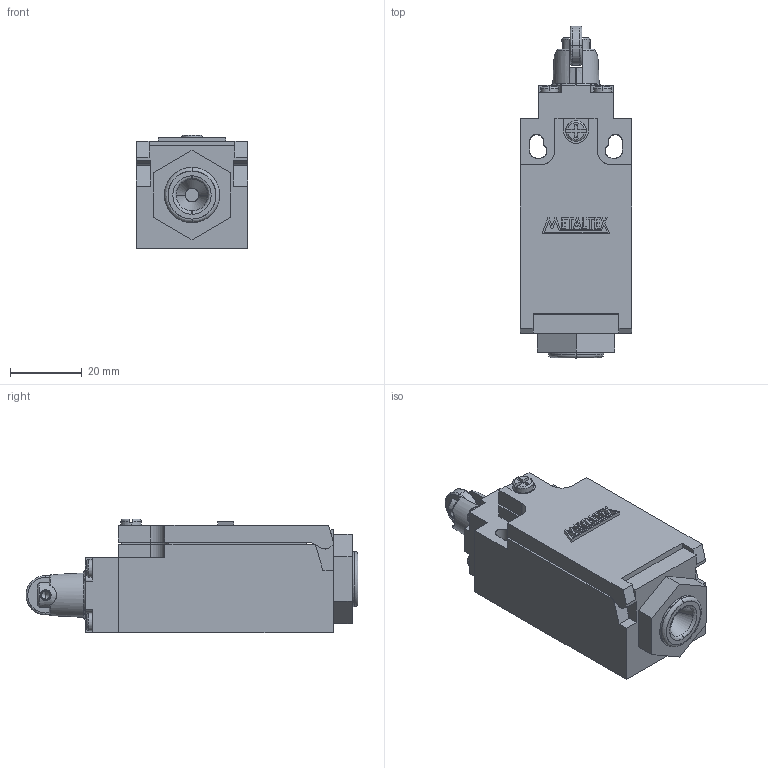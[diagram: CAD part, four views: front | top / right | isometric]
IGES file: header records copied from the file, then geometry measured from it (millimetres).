
Start section: SolidWorks IGES file using analytic representation for surfaces
Global section: file name: D:\X - Arquivos\PROEX\Empresas\P11 - METALTEX\01 - Produtos\IGES\4ª remessa\1ª etapa\FM9222.IGS; native system: SolidWorks 2012; preprocessor: SolidWorks 2012; author: Usuario; date: 180323.102742; units: millimetre
Bounding box: 31.2 x 92.7 x 31.7 mm (x, y, z)
Surface area: 13824.9 mm2 (no closed solid volume)
Topology: 0 solids, 0 shells, 371 faces, 3369 edges, 3367 vertices
Faces by surface type: bspline 312, revolution 59
